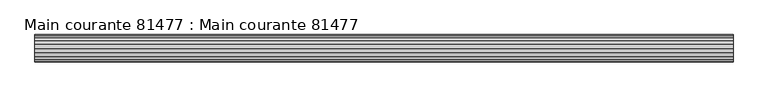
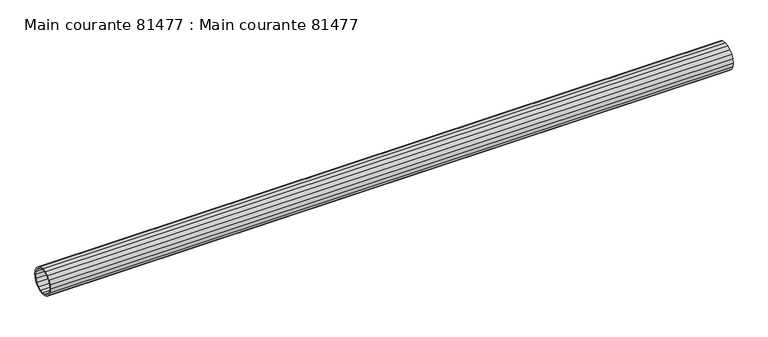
"""IFC4 building model written with IfcOpenShell, lengths in millimetres: beam geometry, Main courante 81477 : Main courante 81477."""

from ifc_helpers import new_model, si_unit, frame, origin, place, context, project, spatial, polyline, outline, extrude, source, transform, mapped, element, save


def main_courante_81477_main_courante_81477_c8573a09(model_context):
    return source(origin(), model_context, "Body", "SweptSolid", [
        extrude(outline(polyline([(-35766.5, 8765.0), (-35765.3180149, 8772.4627604), (-35761.8877604, 8779.1950138), (-35756.5450138, 8784.5377604), (-35749.8127604, 8787.9680149), (-35742.35, 8789.15), (-35734.8872396, 8787.9680149), (-35728.1549862, 8784.5377604), (-35722.8122396, 8779.1950138), (-35719.3819851, 8772.4627604), (-35718.2, 8765.0), (-35719.3819851, 8757.5372396), (-35722.8122396, 8750.8049862), (-35728.1549862, 8745.4622396), (-35734.8872396, 8742.0319851), (-35742.35, 8740.85), (-35749.8127604, 8742.0319851), (-35756.5450138, 8745.4622396), (-35761.8877604, 8750.8049862), (-35765.3180149, 8757.5372396), (-35766.5, 8765.0)]), holes=[polyline([(-35764.0, 8765.0), (-35762.9403736, 8758.3097821), (-35759.8652179, 8752.2744493), (-35755.0755507, 8747.4847821), (-35749.0402179, 8744.4096264), (-35742.35, 8743.35), (-35735.6597821, 8744.4096264), (-35729.6244493, 8747.4847821), (-35724.8347821, 8752.2744493), (-35721.7596264, 8758.3097821), (-35720.7, 8765.0), (-35721.7596264, 8771.6902179), (-35724.8347821, 8777.7255507), (-35729.6244493, 8782.5152179), (-35735.6597821, 8785.5903736), (-35742.35, 8786.65), (-35749.0402179, 8785.5903736), (-35755.0755507, 8782.5152179), (-35759.8652179, 8777.7255507), (-35762.9403736, 8771.6902179), (-35764.0, 8765.0)])]), frame((1238.4999999, 0.0, 0.0), z_axis=(1.0, 0.0, 0.0), x_axis=(0.0, 1.0, 0.0)), (0.0, 0.0, 1.0), 1228.0),
    ])


if __name__ == "__main__":
    model = new_model("IFC4")
    model_context = context("Model", 3, world=origin())
    ifc_project = project(units=[si_unit("LENGTHUNIT", "METRE", prefix="MILLI")], contexts=[model_context])
    site = spatial("IfcSite", under=ifc_project)
    building = spatial("IfcBuilding", under=site)
    placement = place(None, origin())
    main_courante_81477_main_courante_81477_shape = main_courante_81477_main_courante_81477_c8573a09(model_context)
    element("IfcBeam", 1, ObjectType="Main courante 81477 : Main courante 81477", at=placement, inside=building, context=model_context, shape_type="MappedRepresentation", body=[
        mapped(main_courante_81477_main_courante_81477_shape, transform((0.0, 0.0, 0.0), x_axis=(1.0, 0.0, 0.0), y_axis=(0.0, 1.0, 0.0), z_axis=(0.0, 0.0, 1.0))),
    ])
    save(model, "model.ifc")
